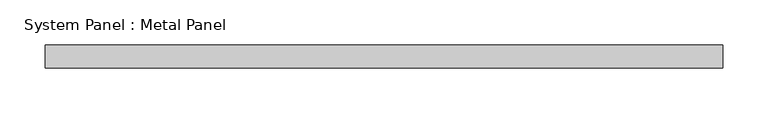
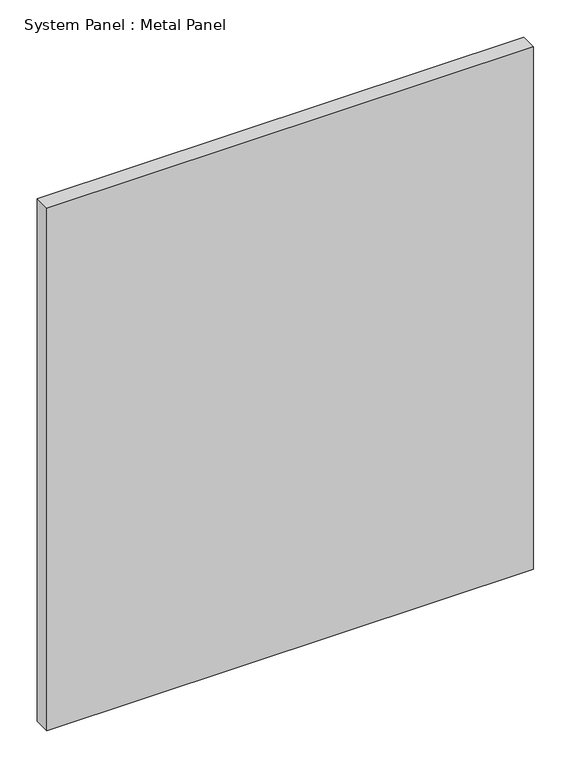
"""IFC4 building model written with IfcOpenShell, lengths in millimetres: plate geometry, System Panel : Metal Panel."""

from ifc_helpers import new_model, si_unit, origin, origin_with_axes, place, context, project, spatial, polyline, outline, extrude, source, transform, mapped, element, save


def system_panel_metal_panel_ab4ce9b6(model_context):
    return source(origin(), model_context, "Body", "SweptSolid", [
        extrude(outline(polyline([(375.1494819, 19.05), (-375.1494819, 19.05), (-375.1494819, 44.45), (375.1494819, 44.45), (375.1494819, 19.05)])), origin_with_axes(), (0.0, 0.0, 1.0), 850.9),
    ])


if __name__ == "__main__":
    model = new_model("IFC4")
    model_context = context("Model", 3, world=origin())
    ifc_project = project(units=[si_unit("LENGTHUNIT", "METRE", prefix="MILLI")], contexts=[model_context])
    site = spatial("IfcSite", under=ifc_project)
    building = spatial("IfcBuilding", under=site)
    placement = place(None, origin())
    system_panel_metal_panel_shape = system_panel_metal_panel_ab4ce9b6(model_context)
    element("IfcPlate", 1, ObjectType="System Panel : Metal Panel", at=placement, inside=building, context=model_context, shape_type="MappedRepresentation", body=[
        mapped(system_panel_metal_panel_shape, transform((0.0, 0.0, 0.0), x_axis=(1.0, 0.0, 0.0), y_axis=(0.0, 1.0, 0.0), z_axis=(0.0, 0.0, 1.0))),
    ])
    save(model, "model.ifc")
